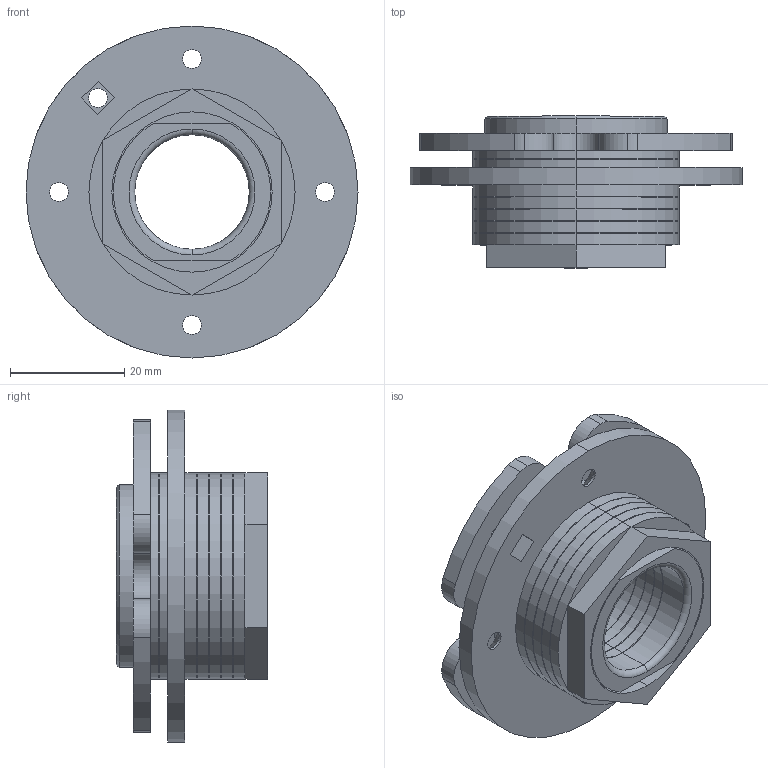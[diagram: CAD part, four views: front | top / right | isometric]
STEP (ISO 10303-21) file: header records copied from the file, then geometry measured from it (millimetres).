
FILE_DESCRIPTION (( 'STEP AP203' ), '1' );
FILE_NAME ('XG11-109.STEP', '2025-04-12T08:21:55', ( '微软用户' ), ( '微软中国' ), 'SwSTEP 2.0', 'SolidWorks 2024', '' );
FILE_SCHEMA (( 'CONFIG_CONTROL_DESIGN' ));
Length unit declared in the file: millimetre
Products named in the file (1): XG11-109
Bounding box: 58 x 26.5 x 58 mm (x, y, z)
Volume: 24991.3 mm3; surface area: 19701.4 mm2
Topology: 6 solids, 6 shells, 119 faces, 275 edges, 174 vertices
Faces by surface type: cylinder 69, plane 36, cone 12, torus 2
Entity records: 3550 total; most frequent: DIRECTION 673, CARTESIAN_POINT 569, ORIENTED_EDGE 550, AXIS2_PLACEMENT_3D 278, EDGE_CURVE 275, VERTEX_POINT 174, CIRCLE 158, EDGE_LOOP 155
